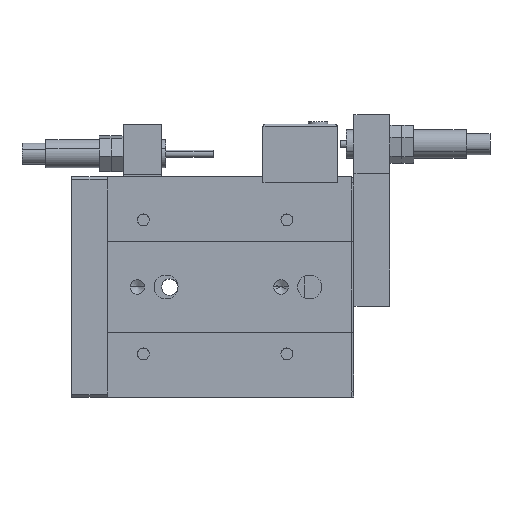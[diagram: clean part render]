
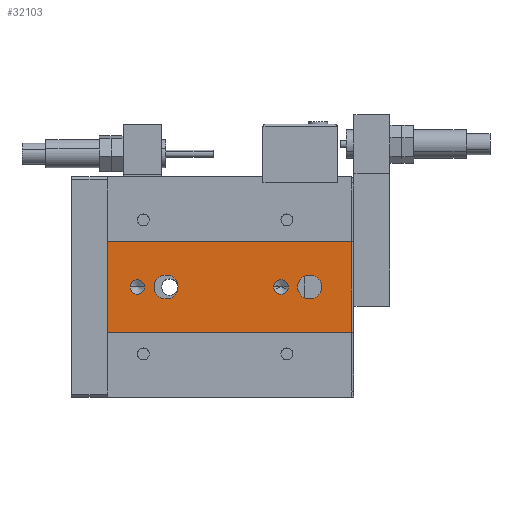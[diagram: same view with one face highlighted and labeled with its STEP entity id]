
A CAD part, top view. The second image highlights one B-rep face of the part: STEP entity #32103.
In plain terms, the highlighted planar face has unit normal (0, 0, 1).
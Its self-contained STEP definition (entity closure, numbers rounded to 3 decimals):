
#1131 = CARTESIAN_POINT ( 'NONE',  ( 102., 27., 24. ) ) ;
#1198 = DIRECTION ( 'NONE',  ( 0., 1., 0. ) ) ;
#1199 = VECTOR ( 'NONE', #1198, 1000. ) ;
#1200 = CARTESIAN_POINT ( 'NONE',  ( 102., 65., 24. ) ) ;
#1201 = LINE ( 'NONE', #1200, #1199 ) ;
#1202 = CARTESIAN_POINT ( 'NONE',  ( 102., 65., 24. ) ) ;
#1536 = CARTESIAN_POINT ( 'NONE',  ( 0., 27., 24. ) ) ;
#1594 = CARTESIAN_POINT ( 'NONE',  ( 0., 65., 24. ) ) ;
#1621 = LINE ( 'NONE', #1660, #1659 ) ;
#1658 = DIRECTION ( 'NONE',  ( 0., -1., 0. ) ) ;
#1659 = VECTOR ( 'NONE', #1658, 1000. ) ;
#1660 = CARTESIAN_POINT ( 'NONE',  ( 0., 65., 24. ) ) ;
#6386 = CARTESIAN_POINT ( 'NONE',  ( 26.5, 46., 24. ) ) ;
#6418 = CARTESIAN_POINT ( 'NONE',  ( 22.5, 46., 24. ) ) ;
#6983 = CARTESIAN_POINT ( 'NONE',  ( 17.5, 46., 24. ) ) ;
#7042 = DIRECTION ( 'NONE',  ( 1., 0., 0. ) ) ;
#7043 = DIRECTION ( 'NONE',  ( 0., 0., 1. ) ) ;
#7044 = AXIS2_PLACEMENT_3D ( 'NONE', #6983, #7043, #7042 ) ;
#7050 = CIRCLE ( 'NONE', #7044, 5. ) ;
#7073 = CARTESIAN_POINT ( 'NONE',  ( 12.5, 46., 24. ) ) ;
#7082 = CARTESIAN_POINT ( 'NONE',  ( 32.5, 46., 24. ) ) ;
#7135 = DIRECTION ( 'NONE',  ( 1., 0., 0. ) ) ;
#7136 = DIRECTION ( 'NONE',  ( 0., 0., 1. ) ) ;
#7137 = CARTESIAN_POINT ( 'NONE',  ( 29.5, 46., 24. ) ) ;
#7138 = AXIS2_PLACEMENT_3D ( 'NONE', #7137, #7136, #7135 ) ;
#7139 = CIRCLE ( 'NONE', #7138, 3. ) ;
#7196 = CARTESIAN_POINT ( 'NONE',  ( 72.5, 46., 24. ) ) ;
#7271 = CARTESIAN_POINT ( 'NONE',  ( 86.5, 46., 24. ) ) ;
#7305 = CARTESIAN_POINT ( 'NONE',  ( 92.5, 46., 24. ) ) ;
#7392 = AXIS2_PLACEMENT_3D ( 'NONE', #7459, #7458, #7457 ) ;
#7393 = CIRCLE ( 'NONE', #7392, 5. ) ;
#7457 = DIRECTION ( 'NONE',  ( 1., 0., 0. ) ) ;
#7458 = DIRECTION ( 'NONE',  ( 0., 0., 1. ) ) ;
#7459 = CARTESIAN_POINT ( 'NONE',  ( 77.5, 46., 24. ) ) ;
#7471 = DIRECTION ( 'NONE',  ( 1., 0., 0. ) ) ;
#7472 = DIRECTION ( 'NONE',  ( 0., 0., 1. ) ) ;
#7473 = AXIS2_PLACEMENT_3D ( 'NONE', #7480, #7472, #7471 ) ;
#7480 = CARTESIAN_POINT ( 'NONE',  ( 89.5, 46., 24. ) ) ;
#7483 = CIRCLE ( 'NONE', #7473, 3. ) ;
#7496 = CARTESIAN_POINT ( 'NONE',  ( 82.5, 46., 24. ) ) ;
#8306 = VERTEX_POINT ( 'NONE', #1131 ) ;
#8329 = EDGE_CURVE ( 'NONE', #8306, #8330, #1201, .T. ) ;
#8330 = VERTEX_POINT ( 'NONE', #1202 ) ;
#8512 = VERTEX_POINT ( 'NONE', #1536 ) ;
#8524 = VERTEX_POINT ( 'NONE', #1594 ) ;
#8546 = EDGE_CURVE ( 'NONE', #8524, #8512, #1621, .T. ) ;
#14028 = VERTEX_POINT ( 'NONE', #6386 ) ;
#15144 = VERTEX_POINT ( 'NONE', #6418 ) ;
#15279 = EDGE_CURVE ( 'NONE', #15389, #15144, #7050, .T. ) ;
#15362 = VERTEX_POINT ( 'NONE', #7082 ) ;
#15389 = VERTEX_POINT ( 'NONE', #7073 ) ;
#15543 = EDGE_CURVE ( 'NONE', #14028, #15362, #7139, .T. ) ;
#15675 = VERTEX_POINT ( 'NONE', #7196 ) ;
#16132 = VERTEX_POINT ( 'NONE', #7271 ) ;
#16234 = VERTEX_POINT ( 'NONE', #7305 ) ;
#16506 = EDGE_CURVE ( 'NONE', #15675, #16643, #7393, .T. ) ;
#16643 = VERTEX_POINT ( 'NONE', #7496 ) ;
#16760 = EDGE_CURVE ( 'NONE', #16132, #16234, #7483, .T. ) ;
#22236 = DIRECTION ( 'NONE',  ( -1., 0., 0. ) ) ;
#22237 = VECTOR ( 'NONE', #22236, 1000. ) ;
#22245 = CARTESIAN_POINT ( 'NONE',  ( 0., 65., 24. ) ) ;
#22246 = LINE ( 'NONE', #22245, #22237 ) ;
#22256 = FACE_BOUND ( 'NONE', #32097, .T. ) ;
#22259 = FACE_BOUND ( 'NONE', #32107, .T. ) ;
#22287 = DIRECTION ( 'NONE',  ( 1., 0., 0. ) ) ;
#22288 = DIRECTION ( 'NONE',  ( 0., 0., 1. ) ) ;
#22289 = CARTESIAN_POINT ( 'NONE',  ( 0., 27., 24. ) ) ;
#22290 = AXIS2_PLACEMENT_3D ( 'NONE', #22289, #22288, #22287 ) ;
#22294 = CARTESIAN_POINT ( 'NONE',  ( 17.5, 46., 24. ) ) ;
#22295 = FACE_BOUND ( 'NONE', #32122, .T. ) ;
#22297 = AXIS2_PLACEMENT_3D ( 'NONE', #22350, #22346, #22345 ) ;
#22298 = PLANE ( 'NONE',  #22290 ) ;
#22302 = FACE_OUTER_BOUND ( 'NONE', #32185, .T. ) ;
#22308 = FACE_BOUND ( 'NONE', #32091, .T. ) ;
#22315 = CIRCLE ( 'NONE', #22297, 3. ) ;
#22324 = DIRECTION ( 'NONE',  ( 1., 0., 0. ) ) ;
#22325 = DIRECTION ( 'NONE',  ( 0., 0., 1. ) ) ;
#22327 = AXIS2_PLACEMENT_3D ( 'NONE', #22294, #22325, #22324 ) ;
#22328 = LINE ( 'NONE', #22412, #22411 ) ;
#22333 = CIRCLE ( 'NONE', #22327, 5. ) ;
#22345 = DIRECTION ( 'NONE',  ( 1., 0., 0. ) ) ;
#22346 = DIRECTION ( 'NONE',  ( 0., 0., 1. ) ) ;
#22350 = CARTESIAN_POINT ( 'NONE',  ( 29.5, 46., 24. ) ) ;
#22410 = DIRECTION ( 'NONE',  ( 1., 0., 0. ) ) ;
#22411 = VECTOR ( 'NONE', #22410, 1000. ) ;
#22412 = CARTESIAN_POINT ( 'NONE',  ( 0., 27., 24. ) ) ;
#22420 = DIRECTION ( 'NONE',  ( 1., 0., 0. ) ) ;
#22421 = DIRECTION ( 'NONE',  ( 0., 0., 1. ) ) ;
#22422 = CARTESIAN_POINT ( 'NONE',  ( 77.5, 46., 24. ) ) ;
#22423 = AXIS2_PLACEMENT_3D ( 'NONE', #22422, #22421, #22420 ) ;
#22427 = CIRCLE ( 'NONE', #22423, 5. ) ;
#22428 = DIRECTION ( 'NONE',  ( 1., 0., 0. ) ) ;
#22429 = DIRECTION ( 'NONE',  ( 0., 0., 1. ) ) ;
#22430 = CARTESIAN_POINT ( 'NONE',  ( 89.5, 46., 24. ) ) ;
#22434 = CIRCLE ( 'NONE', #22436, 3. ) ;
#22436 = AXIS2_PLACEMENT_3D ( 'NONE', #22430, #22429, #22428 ) ;
#32063 = EDGE_CURVE ( 'NONE', #8330, #8524, #22246, .T. ) ;
#32090 = ORIENTED_EDGE ( 'NONE', *, *, #32184, .F. ) ;
#32091 = EDGE_LOOP ( 'NONE', ( #32104, #32098 ) ) ;
#32097 = EDGE_LOOP ( 'NONE', ( #32090, #32111 ) ) ;
#32098 = ORIENTED_EDGE ( 'NONE', *, *, #15543, .F. ) ;
#32103 = ADVANCED_FACE ( 'NONE', ( #22295, #22308, #22256, #22259, #22302 ), #22298, .T. ) ;
#32104 = ORIENTED_EDGE ( 'NONE', *, *, #32106, .F. ) ;
#32106 = EDGE_CURVE ( 'NONE', #15362, #14028, #22315, .T. ) ;
#32107 = EDGE_LOOP ( 'NONE', ( #32182, #32180 ) ) ;
#32108 = ORIENTED_EDGE ( 'NONE', *, *, #15279, .F. ) ;
#32109 = ORIENTED_EDGE ( 'NONE', *, *, #32117, .F. ) ;
#32111 = ORIENTED_EDGE ( 'NONE', *, *, #16506, .F. ) ;
#32117 = EDGE_CURVE ( 'NONE', #15144, #15389, #22333, .T. ) ;
#32122 = EDGE_LOOP ( 'NONE', ( #32109, #32108 ) ) ;
#32143 = ORIENTED_EDGE ( 'NONE', *, *, #32146, .T. ) ;
#32146 = EDGE_CURVE ( 'NONE', #8512, #8306, #22328, .T. ) ;
#32163 = ORIENTED_EDGE ( 'NONE', *, *, #8546, .T. ) ;
#32170 = ORIENTED_EDGE ( 'NONE', *, *, #32063, .T. ) ;
#32176 = EDGE_CURVE ( 'NONE', #16234, #16132, #22434, .T. ) ;
#32180 = ORIENTED_EDGE ( 'NONE', *, *, #16760, .F. ) ;
#32182 = ORIENTED_EDGE ( 'NONE', *, *, #32176, .F. ) ;
#32184 = EDGE_CURVE ( 'NONE', #16643, #15675, #22427, .T. ) ;
#32185 = EDGE_LOOP ( 'NONE', ( #32163, #32143, #32242, #32170 ) ) ;
#32242 = ORIENTED_EDGE ( 'NONE', *, *, #8329, .T. ) ;
